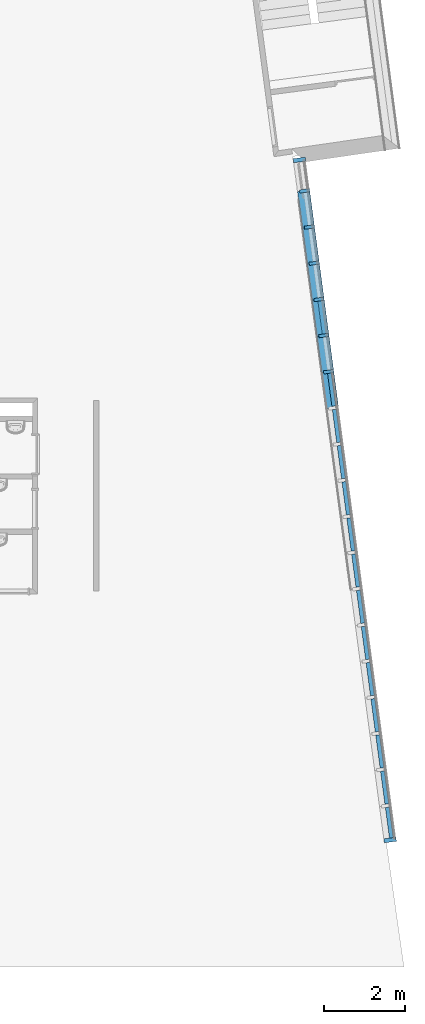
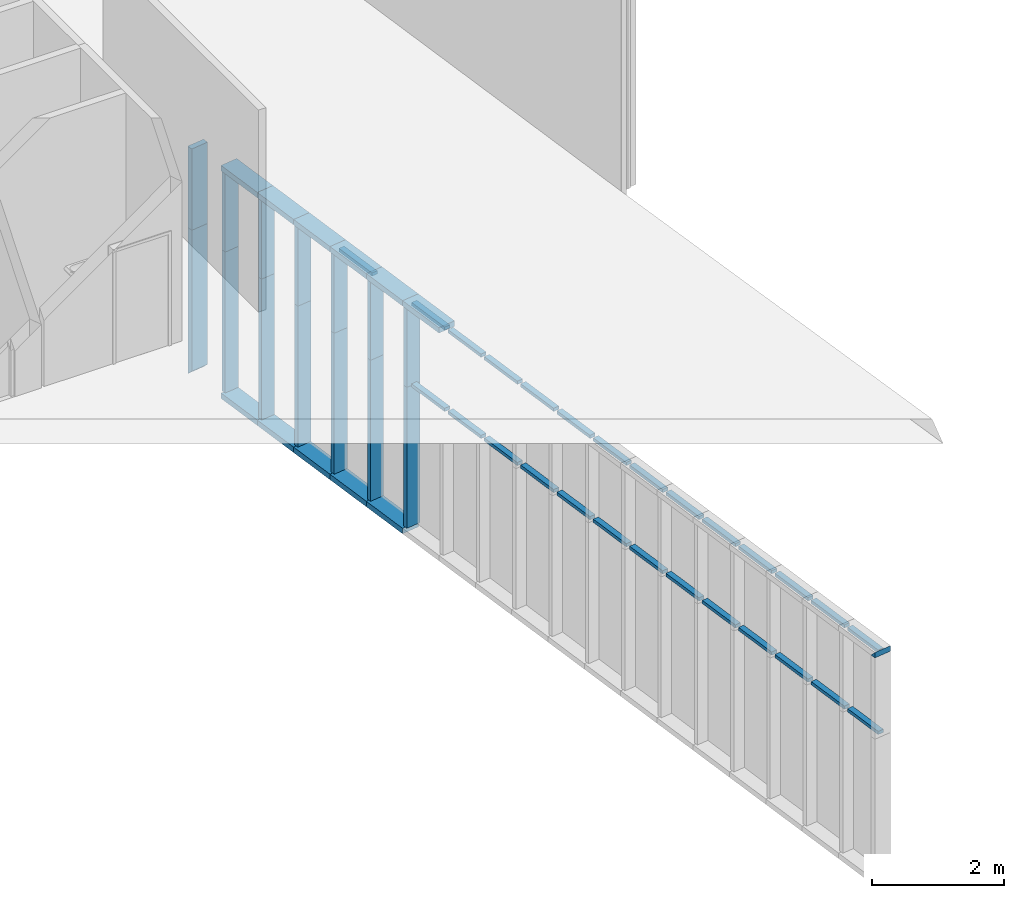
# One storey, part 2 of 17: 53 members, 1 element without a shape of its own.
"""IFC2X3 building model written with IfcOpenShell, lengths in metres."""

from ifc_helpers import new_model, entity, si_unit, converted_unit, money_unit, direction, frame, origin_with_axes, place, context, subcontext, project, spatial, polyline, outline, extrude, clip, halfspace, material, type_object, element, aggregate, save


model = new_model("IFC2X3")

# Units and contexts
model_context = context("Model", 3, precision=1e-05, world=origin_with_axes(), true_north=direction((0.0, 1.0)))
body_context = subcontext(model_context, "Body", "Model", "MODEL_VIEW")
ifc_project = project(units=[si_unit("LENGTHUNIT", "METRE"), si_unit("AREAUNIT", "SQUARE_METRE"), si_unit("VOLUMEUNIT", "CUBIC_METRE"), converted_unit("PLANEANGLEUNIT", "DEGREE", entity("IfcPlaneAngleMeasure", 0.0174532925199), si_unit("PLANEANGLEUNIT", "RADIAN"), dimensions=[0, 0, 0, 0, 0, 0, 0]), si_unit("SOLIDANGLEUNIT", "STERADIAN"), money_unit("EUR"), converted_unit("TIMEUNIT", "Year", entity("IfcTimeMeasure", 31556926.0), si_unit("TIMEUNIT", "SECOND"), dimensions=[0, 0, 0, 0, 0, 0, 0]), si_unit("MASSUNIT", "GRAM"), si_unit("THERMODYNAMICTEMPERATUREUNIT", "DEGREE_CELSIUS"), si_unit("LUMINOUSINTENSITYUNIT", "LUMEN")], contexts=[model_context])

# Site, building, storey
site_placement = place(None, origin_with_axes())
site = spatial("IfcSite", under=ifc_project, at=site_placement, Name="Undefined", CompositionType="ELEMENT")
building_placement = place(site_placement, origin_with_axes())
building = spatial("IfcBuilding", under=site, at=building_placement, Name="Undefined", CompositionType="ELEMENT")
storey_placement = place(building_placement, frame((0.0, 0.0, 9.425), z_axis=(0.0, 0.0, 1.0), x_axis=(1.0, 0.0, 0.0)))
storey = spatial("IfcBuildingStorey", under=building, at=storey_placement, Name="Mezzannine", CompositionType="ELEMENT", Elevation=9.425)

# Curtain wall, members
curtain_wall_type = type_object("IfcCurtainWallType", Name="Type de mur-rideau", PredefinedType="NOTDEFINED")
curtain_wall_placement = place(storey_placement, frame((66.1412459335, 18.707491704, -9.32500003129), z_axis=(0.0, 0.0, 1.0), x_axis=(1.0, 0.0, 0.0)))
curtain_wall = element("IfcCurtainWall", 1, at=curtain_wall_placement, inside=storey, type_object=curtain_wall_type, Name="CurtainWall_02", ObjectType="CURTAIN WALL")
ifc_material = material(Name="25 % 359672764")
member_type_1 = type_object("IfcMemberType", Name="Cadre 100 x 300", PredefinedType="NOTDEFINED")
member_1_placement = place(curtain_wall_placement, frame((0.178323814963, -1.33817062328, -1.0673850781e-07), z_axis=(-0.132091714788, 0.991237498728, 0.0), x_axis=(0.0, 0.0, 1.0)))
member_1 = element("IfcMember", 2, at=member_1_placement, type_object=member_type_1, material=ifc_material, Name="Frame-Bnd-414", context=body_context, shape_type="SweptSolid", body=[
    extrude(outline(polyline([(-0.25, -0.1), (0.05, -0.1), (0.05, 0.0), (-0.25, 0.0), (-0.25, -0.1)])), frame((0.0, 0.0, 0.0), z_axis=(0.0, 0.0, 1.0), x_axis=(0.0, 1.0, 0.0)), (0.0, 0.0, 1.0), 0.9),
])
member_2_placement = place(curtain_wall_placement, frame((-0.168111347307, 1.26153462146, 0.0), z_axis=(0.0, 0.0, 1.0), x_axis=(0.132091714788, -0.991237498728, 0.0)))
member_2 = element("IfcMember", 3, at=member_2_placement, type_object=member_type_1, material=ifc_material, Name="Frame-Bnd-360", context=body_context, shape_type="Clipping", body=[
    clip(extrude(outline(polyline([(-0.234600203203, -0.13214667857), (0.0627710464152, -0.0925191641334), (0.0495618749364, 0.00660458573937), (-0.247809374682, -0.0330229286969), (-0.234600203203, -0.13214667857)])), frame((0.0, 0.0, 0.0), z_axis=(0.0, 0.0, 1.0), x_axis=(0.132091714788, 0.991237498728, 0.0)), (0.0, 0.0, 1.0), 2.70000003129), halfspace(frame((0.0, 0.0, 0.0), z_axis=(-0.707106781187, 0.0, 0.707106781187), x_axis=(0.0, -1.0, 0.0)), True)),
])
member_3_placement = place(curtain_wall_placement, frame((0.534971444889, -4.01451186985, -1.0673850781e-07), z_axis=(-0.132091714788, 0.991237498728, 0.0), x_axis=(0.0, 0.0, 1.0)))
member_3 = element("IfcMember", 4, at=member_3_placement, type_object=member_type_1, material=ifc_material, Name="Frame-Bnd-417", context=body_context, shape_type="SweptSolid", body=[
    extrude(outline(polyline([(-0.25, -0.1), (0.05, -0.1), (0.05, 0.0), (-0.25, 0.0), (-0.25, -0.1)])), frame((0.0, 0.0, 0.0), z_axis=(0.0, 0.0, 1.0), x_axis=(0.0, 1.0, 0.0)), (0.0, 0.0, 1.0), 0.9),
])
member_4_placement = place(curtain_wall_placement, frame((0.0594412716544, -0.446056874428, -1.0673850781e-07), z_axis=(-0.132091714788, 0.991237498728, 1.18598342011e-07), x_axis=(1.56658583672e-08, -1.17559123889e-07, 1.0)))
member_4 = element("IfcMember", 5, at=member_4_placement, type_object=member_type_1, material=ifc_material, Name="Frame-Bnd-413", context=body_context, shape_type="SweptSolid", body=[
    extrude(outline(polyline([(-0.25, -0.1), (0.05, -0.1), (0.05, 0.0), (-0.25, 0.0), (-0.25, -0.1)])), frame((0.0, 0.0, 0.0), z_axis=(0.0, 0.0, 1.0), x_axis=(0.0, 1.0, 0.0)), (0.0, 0.0, 1.0), 0.9),
])
member_5_placement = place(curtain_wall_placement, frame((0.416088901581, -3.12239812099, -1.0673850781e-07), z_axis=(-0.132091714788, 0.991237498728, 0.0), x_axis=(0.0, 0.0, 1.0)))
member_5 = element("IfcMember", 6, at=member_5_placement, type_object=member_type_1, material=ifc_material, Name="Frame-Bnd-416", context=body_context, shape_type="SweptSolid", body=[
    extrude(outline(polyline([(-0.25, -0.1), (0.05, -0.1), (0.05, 0.0), (-0.25, 0.0), (-0.25, -0.1)])), frame((0.0, 0.0, 0.0), z_axis=(0.0, 0.0, 1.0), x_axis=(0.0, 1.0, 0.0)), (0.0, 0.0, 1.0), 0.9),
])
member_6_placement = place(curtain_wall_placement, frame((0.297206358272, -2.23028437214, -1.0673850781e-07), z_axis=(-0.132091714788, 0.991237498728, 0.0), x_axis=(0.0, 0.0, 1.0)))
member_6 = element("IfcMember", 7, at=member_6_placement, type_object=member_type_1, material=ifc_material, Name="Frame-Bnd-415", context=body_context, shape_type="SweptSolid", body=[
    extrude(outline(polyline([(-0.25, -0.1), (0.05, -0.1), (0.05, 0.0), (-0.25, 0.0), (-0.25, -0.1)])), frame((0.0, 0.0, 0.0), z_axis=(0.0, 0.0, 1.0), x_axis=(0.0, 1.0, 0.0)), (0.0, 0.0, 1.0), 0.9),
])
member_7_placement = place(curtain_wall_placement, frame((-0.168111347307, 1.26153462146, 2.70000003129), z_axis=(0.0, 0.0, 1.0), x_axis=(0.132091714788, -0.991237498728, 0.0)))
member_7 = element("IfcMember", 8, at=member_7_placement, type_object=member_type_1, material=ifc_material, Name="Frame-Bnd-359", context=body_context, shape_type="SweptSolid", body=[
    extrude(outline(polyline([(-0.234600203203, -0.13214667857), (0.0627710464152, -0.0925191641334), (0.0495618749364, 0.00660458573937), (-0.247809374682, -0.0330229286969), (-0.234600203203, -0.13214667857)])), frame((0.0, 0.0, 0.0), z_axis=(0.0, 0.0, 1.0), x_axis=(0.132091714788, 0.991237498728, 0.0)), (0.0, 0.0, 1.0), 1.5),
])
member_8_placement = place(curtain_wall_placement, frame((0.534971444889, -4.01451186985, 4.29999999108), z_axis=(0.132091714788, -0.991237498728, 0.0), x_axis=(0.0, 0.0, -1.0)))
member_8 = element("IfcMember", 9, at=member_8_placement, type_object=member_type_1, material=ifc_material, Name="Frame-Bnd-298", context=body_context, shape_type="SweptSolid", body=[
    extrude(outline(polyline([(0.25, 0.1), (-0.05, 0.1), (-0.05, 0.0), (0.25, 0.0), (0.25, 0.1)])), frame((0.0, 0.0, 0.0), z_axis=(0.0, 0.0, 1.0), x_axis=(0.0, -1.0, 0.0)), (0.0, 0.0, 1.0), 0.9),
])
member_9_placement = place(curtain_wall_placement, frame((0.416088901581, -3.12239812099, 4.29999999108), z_axis=(0.132091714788, -0.991237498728, 0.0), x_axis=(0.0, 0.0, -1.0)))
member_9 = element("IfcMember", 10, at=member_9_placement, type_object=member_type_1, material=ifc_material, Name="Frame-Bnd-299", context=body_context, shape_type="SweptSolid", body=[
    extrude(outline(polyline([(0.25, 0.1), (-0.05, 0.1), (-0.05, 0.0), (0.25, 0.0), (0.25, 0.1)])), frame((0.0, 0.0, 0.0), z_axis=(0.0, 0.0, 1.0), x_axis=(0.0, -1.0, 0.0)), (0.0, 0.0, 1.0), 0.9),
])
member_10_placement = place(curtain_wall_placement, frame((0.297206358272, -2.23028437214, 4.29999999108), z_axis=(0.132091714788, -0.991237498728, 0.0), x_axis=(0.0, 0.0, -1.0)))
member_10 = element("IfcMember", 11, at=member_10_placement, type_object=member_type_1, material=ifc_material, Name="Frame-Bnd-300", context=body_context, shape_type="SweptSolid", body=[
    extrude(outline(polyline([(0.25, 0.1), (-0.05, 0.1), (-0.05, 0.0), (0.25, 0.0), (0.25, 0.1)])), frame((0.0, 0.0, 0.0), z_axis=(0.0, 0.0, 1.0), x_axis=(0.0, -1.0, 0.0)), (0.0, 0.0, 1.0), 0.9),
])
member_11_placement = place(curtain_wall_placement, frame((0.178323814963, -1.33817062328, 4.29999999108), z_axis=(0.132091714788, -0.991237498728, 0.0), x_axis=(0.0, 0.0, -1.0)))
member_11 = element("IfcMember", 12, at=member_11_placement, type_object=member_type_1, material=ifc_material, Name="Frame-Bnd-301", context=body_context, shape_type="SweptSolid", body=[
    extrude(outline(polyline([(0.25, 0.1), (-0.05, 0.1), (-0.05, 0.0), (0.25, 0.0), (0.25, 0.1)])), frame((0.0, 0.0, 0.0), z_axis=(0.0, 0.0, 1.0), x_axis=(0.0, -1.0, 0.0)), (0.0, 0.0, 1.0), 0.9),
])
member_12_placement = place(curtain_wall_placement, frame((0.0594412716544, -0.446056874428, 4.29999999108), z_axis=(0.132091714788, -0.991237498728, 0.0), x_axis=(0.0, 0.0, -1.0)))
member_12 = element("IfcMember", 13, at=member_12_placement, type_object=member_type_1, material=ifc_material, Name="Frame-Bnd-302", context=body_context, shape_type="SweptSolid", body=[
    extrude(outline(polyline([(0.25, 0.1), (-0.05, 0.1), (-0.05, 0.0), (0.25, 0.0), (0.25, 0.1)])), frame((0.0, 0.0, 0.0), z_axis=(0.0, 0.0, 1.0), x_axis=(0.0, -1.0, 0.0)), (0.0, 0.0, 1.0), 0.9),
])
member_13_placement = place(curtain_wall_placement, frame((-0.0594412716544, 0.446056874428, 4.29999999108), z_axis=(0.132091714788, -0.991237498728, 0.0), x_axis=(0.0, 0.0, -1.0)))
member_13 = element("IfcMember", 14, at=member_13_placement, type_object=member_type_1, material=ifc_material, Name="Frame-Bnd-303", context=body_context, shape_type="SweptSolid", body=[
    extrude(outline(polyline([(0.25, 0.1), (-0.05, 0.1), (-0.05, 0.0), (0.25, 0.0), (0.25, 0.1)])), frame((0.0, 0.0, 0.0), z_axis=(0.0, 0.0, 1.0), x_axis=(0.0, -1.0, 0.0)), (0.0, 0.0, 1.0), 0.9),
])
member_14_placement = place(curtain_wall_placement, frame((2.0804445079, -15.611990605, 4.20000003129), z_axis=(0.0, 0.0, 1.0), x_axis=(0.132091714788, -0.991237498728, 0.0)))
member_14 = element("IfcMember", 15, at=member_14_placement, type_object=member_type_1, material=ifc_material, Name="Frame-Bnd-285", context=body_context, shape_type="Clipping", body=[
    clip(extrude(outline(polyline([(0.0495618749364, 0.00660458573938), (0.0363527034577, 0.105728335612), (-0.261018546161, 0.0661008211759), (-0.247809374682, -0.0330229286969), (0.0495618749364, 0.00660458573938)])), frame((0.0, 0.0, 0.0), z_axis=(0.0, 0.0, 1.0), x_axis=(0.132091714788, 0.991237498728, 0.0)), (0.0, 0.0, 1.0), 0.0999999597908), halfspace(frame((-0.0499999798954, 0.0, 0.05), z_axis=(0.707106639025, 0.0, -0.707106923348), x_axis=(0.0, 1.0, 0.0)), True)),
])
member_type_2 = type_object("IfcMemberType", Name="Montant 80 x 250", PredefinedType="NOTDEFINED")
member_15_placement = place(curtain_wall_placement, frame((0.534971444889, -4.01451186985, -1.0673850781e-07), z_axis=(0.0, 0.0, 1.0), x_axis=(0.132091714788, -0.991237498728, 0.0)))
member_15 = element("IfcMember", 16, at=member_15_placement, type_object=member_type_2, material=ifc_material, Name="Frame-Mll-458", context=body_context, shape_type="SweptSolid", body=[
    extrude(outline(polyline([(-0.192963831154, -0.0660678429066), (0.0548455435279, -0.0330449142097), (0.0442782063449, 0.0462540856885), (-0.203531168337, 0.0132311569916), (-0.192963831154, -0.0660678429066)])), frame((0.0, 0.0, 0.1), z_axis=(0.0, 0.0, 1.0), x_axis=(0.132091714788, 0.991237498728, 0.0)), (0.0, 0.0, 1.0), 2.60000013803),
])
member_16_placement = place(curtain_wall_placement, frame((0.416088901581, -3.12239812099, -1.0673850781e-07), z_axis=(0.0, 0.0, 1.0), x_axis=(0.132091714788, -0.991237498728, 0.0)))
member_16 = element("IfcMember", 17, at=member_16_placement, type_object=member_type_2, material=ifc_material, Name="Frame-Mll-458", context=body_context, shape_type="SweptSolid", body=[
    extrude(outline(polyline([(-0.192963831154, -0.0660678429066), (0.0548455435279, -0.0330449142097), (0.0442782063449, 0.0462540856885), (-0.203531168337, 0.0132311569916), (-0.192963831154, -0.0660678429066)])), frame((0.0, 0.0, 0.1), z_axis=(0.0, 0.0, 1.0), x_axis=(0.132091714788, 0.991237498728, 0.0)), (0.0, 0.0, 1.0), 2.60000013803),
])
member_17_placement = place(curtain_wall_placement, frame((0.297206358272, -2.23028437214, -1.0673850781e-07), z_axis=(0.0, 0.0, 1.0), x_axis=(0.132091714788, -0.991237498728, 0.0)))
member_17 = element("IfcMember", 18, at=member_17_placement, type_object=member_type_2, material=ifc_material, Name="Frame-Mll-458", context=body_context, shape_type="SweptSolid", body=[
    extrude(outline(polyline([(-0.192963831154, -0.0660678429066), (0.0548455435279, -0.0330449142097), (0.0442782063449, 0.0462540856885), (-0.203531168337, 0.0132311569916), (-0.192963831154, -0.0660678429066)])), frame((0.0, 0.0, 0.1), z_axis=(0.0, 0.0, 1.0), x_axis=(0.132091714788, 0.991237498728, 0.0)), (0.0, 0.0, 1.0), 2.60000013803),
])
member_18_placement = place(curtain_wall_placement, frame((0.178323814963, -1.33817062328, -1.0673850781e-07), z_axis=(0.0, 0.0, 1.0), x_axis=(0.132091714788, -0.991237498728, 0.0)))
member_18 = element("IfcMember", 19, at=member_18_placement, type_object=member_type_2, material=ifc_material, Name="Frame-Mll-458", context=body_context, shape_type="SweptSolid", body=[
    extrude(outline(polyline([(-0.192963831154, -0.0660678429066), (0.0548455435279, -0.0330449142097), (0.0442782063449, 0.0462540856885), (-0.203531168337, 0.0132311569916), (-0.192963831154, -0.0660678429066)])), frame((0.0, 0.0, 0.1), z_axis=(0.0, 0.0, 1.0), x_axis=(0.132091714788, 0.991237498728, 0.0)), (0.0, 0.0, 1.0), 2.60000013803),
])
member_19_placement = place(curtain_wall_placement, frame((0.0594412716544, -0.446056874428, -1.0673850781e-07), z_axis=(0.0, 0.0, 1.0), x_axis=(0.132091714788, -0.991237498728, 0.0)))
member_19 = element("IfcMember", 20, at=member_19_placement, type_object=member_type_2, material=ifc_material, Name="Frame-Mll-458", context=body_context, shape_type="SweptSolid", body=[
    extrude(outline(polyline([(-0.192963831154, -0.0660678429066), (0.0548455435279, -0.0330449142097), (0.0442782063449, 0.0462540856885), (-0.203531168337, 0.0132311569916), (-0.192963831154, -0.0660678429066)])), frame((0.0, 0.0, 0.1), z_axis=(0.0, 0.0, 1.0), x_axis=(0.132091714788, 0.991237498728, 0.0)), (0.0, 0.0, 1.0), 2.60000013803),
])
member_20_placement = place(curtain_wall_placement, frame((-0.0594412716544, 0.446056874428, 0.0), z_axis=(0.0, 0.0, 1.0), x_axis=(0.132091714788, -0.991237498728, 0.0)))
member_20 = element("IfcMember", 21, at=member_20_placement, type_object=member_type_2, material=ifc_material, Name="Frame-Mll-458", context=body_context, shape_type="SweptSolid", body=[
    extrude(outline(polyline([(-0.192963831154, -0.0660678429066), (0.0548455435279, -0.0330449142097), (0.0442782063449, 0.0462540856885), (-0.203531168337, 0.0132311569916), (-0.192963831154, -0.0660678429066)])), frame((0.0, 0.0, 0.1), z_axis=(0.0, 0.0, 1.0), x_axis=(0.132091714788, 0.991237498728, 0.0)), (0.0, 0.0, 1.0), 2.60000013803),
])
member_21_placement = place(curtain_wall_placement, frame((0.534971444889, -4.01451186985, 2.70000003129), z_axis=(0.0, 0.0, 1.0), x_axis=(0.132091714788, -0.991237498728, 0.0)))
member_21 = element("IfcMember", 22, at=member_21_placement, type_object=member_type_2, material=ifc_material, Name="Frame-Mll-458", context=body_context, shape_type="SweptSolid", body=[
    extrude(outline(polyline([(-0.192963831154, -0.0660678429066), (0.0548455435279, -0.0330449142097), (0.0442782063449, 0.0462540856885), (-0.203531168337, 0.0132311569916), (-0.192963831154, -0.0660678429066)])), frame((0.0, 0.0, 0.0), z_axis=(0.0, 0.0, 1.0), x_axis=(0.132091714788, 0.991237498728, 0.0)), (0.0, 0.0, 1.0), 1.5),
])
member_22_placement = place(curtain_wall_placement, frame((0.416088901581, -3.12239812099, 2.70000003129), z_axis=(0.0, 0.0, 1.0), x_axis=(0.132091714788, -0.991237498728, 0.0)))
member_22 = element("IfcMember", 23, at=member_22_placement, type_object=member_type_2, material=ifc_material, Name="Frame-Mll-458", context=body_context, shape_type="SweptSolid", body=[
    extrude(outline(polyline([(-0.192963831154, -0.0660678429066), (0.0548455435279, -0.0330449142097), (0.0442782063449, 0.0462540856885), (-0.203531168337, 0.0132311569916), (-0.192963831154, -0.0660678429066)])), frame((0.0, 0.0, 0.0), z_axis=(0.0, 0.0, 1.0), x_axis=(0.132091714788, 0.991237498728, 0.0)), (0.0, 0.0, 1.0), 1.5),
])
member_23_placement = place(curtain_wall_placement, frame((0.297206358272, -2.23028437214, 2.70000003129), z_axis=(0.0, 0.0, 1.0), x_axis=(0.132091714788, -0.991237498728, 0.0)))
member_23 = element("IfcMember", 24, at=member_23_placement, type_object=member_type_2, material=ifc_material, Name="Frame-Mll-458", context=body_context, shape_type="SweptSolid", body=[
    extrude(outline(polyline([(-0.192963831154, -0.0660678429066), (0.0548455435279, -0.0330449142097), (0.0442782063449, 0.0462540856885), (-0.203531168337, 0.0132311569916), (-0.192963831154, -0.0660678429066)])), frame((0.0, 0.0, 0.0), z_axis=(0.0, 0.0, 1.0), x_axis=(0.132091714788, 0.991237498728, 0.0)), (0.0, 0.0, 1.0), 1.5),
])
member_24_placement = place(curtain_wall_placement, frame((0.178323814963, -1.33817062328, 2.70000003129), z_axis=(0.0, 0.0, 1.0), x_axis=(0.132091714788, -0.991237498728, 0.0)))
member_24 = element("IfcMember", 25, at=member_24_placement, type_object=member_type_2, material=ifc_material, Name="Frame-Mll-458", context=body_context, shape_type="SweptSolid", body=[
    extrude(outline(polyline([(-0.192963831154, -0.0660678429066), (0.0548455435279, -0.0330449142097), (0.0442782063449, 0.0462540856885), (-0.203531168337, 0.0132311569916), (-0.192963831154, -0.0660678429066)])), frame((0.0, 0.0, 0.0), z_axis=(0.0, 0.0, 1.0), x_axis=(0.132091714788, 0.991237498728, 0.0)), (0.0, 0.0, 1.0), 1.5),
])
member_25_placement = place(curtain_wall_placement, frame((0.0594412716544, -0.446056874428, 2.70000003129), z_axis=(0.0, 0.0, 1.0), x_axis=(0.132091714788, -0.991237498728, 0.0)))
member_25 = element("IfcMember", 26, at=member_25_placement, type_object=member_type_2, material=ifc_material, Name="Frame-Mll-458", context=body_context, shape_type="SweptSolid", body=[
    extrude(outline(polyline([(-0.192963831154, -0.0660678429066), (0.0548455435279, -0.0330449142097), (0.0442782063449, 0.0462540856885), (-0.203531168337, 0.0132311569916), (-0.192963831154, -0.0660678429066)])), frame((0.0, 0.0, 0.0), z_axis=(0.0, 0.0, 1.0), x_axis=(0.132091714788, 0.991237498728, 0.0)), (0.0, 0.0, 1.0), 1.5),
])
member_26_placement = place(curtain_wall_placement, frame((-0.0594412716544, 0.446056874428, 2.70000003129), z_axis=(0.0, 0.0, 1.0), x_axis=(0.132091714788, -0.991237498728, 0.0)))
member_26 = element("IfcMember", 27, at=member_26_placement, type_object=member_type_2, material=ifc_material, Name="Frame-Mll-458", context=body_context, shape_type="SweptSolid", body=[
    extrude(outline(polyline([(-0.192963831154, -0.0660678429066), (0.0548455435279, -0.0330449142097), (0.0442782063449, 0.0462540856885), (-0.203531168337, 0.0132311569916), (-0.192963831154, -0.0660678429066)])), frame((0.0, 0.0, 0.0), z_axis=(0.0, 0.0, 1.0), x_axis=(0.132091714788, 0.991237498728, 0.0)), (0.0, 0.0, 1.0), 1.5),
])
member_type_3 = type_object("IfcMemberType", Name="Traverse 60 x 100", PredefinedType="NOTDEFINED")
member_27_placement = place(curtain_wall_placement, frame((0.416088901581, -3.12239812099, 4.20000003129), z_axis=(-0.132091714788, 0.991237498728, 0.0), x_axis=(0.0, 0.0, 1.0)))
member_27 = element("IfcMember", 28, at=member_27_placement, type_object=member_type_3, material=ifc_material, Name="Frame-Trs-030", context=body_context, shape_type="SweptSolid", body=[
    extrude(outline(polyline([(-0.11, -0.03), (-0.00999999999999, -0.03), (-0.00999999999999, 0.03), (-0.11, 0.03), (-0.11, -0.03)])), frame((0.0, 0.0, 0.04), z_axis=(0.0, 0.0, 1.0), x_axis=(0.0, 1.0, 0.0)), (0.0, 0.0, 1.0), 0.82),
])
member_28_placement = place(curtain_wall_placement, frame((2.0804445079, -15.611990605, 2.70000003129), z_axis=(-0.132091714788, 0.991237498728, 0.0), x_axis=(0.0, 0.0, 1.0)))
member_28 = element("IfcMember", 29, at=member_28_placement, type_object=member_type_3, material=ifc_material, Name="Frame-Trs-013", context=body_context, shape_type="SweptSolid", body=[
    extrude(outline(polyline([(-0.11, -0.03), (-0.01, -0.03), (-0.01, 0.03), (-0.11, 0.03), (-0.11, -0.03)])), frame((0.0, 0.0, 0.1), z_axis=(0.0, 0.0, 1.0), x_axis=(0.0, 1.0, 0.0)), (0.0, 0.0, 1.0), 0.76),
])
member_29_placement = place(curtain_wall_placement, frame((1.96156196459, -14.7198768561, 2.70000003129), z_axis=(-0.132091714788, 0.991237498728, 0.0), x_axis=(0.0, 0.0, 1.0)))
member_29 = element("IfcMember", 30, at=member_29_placement, type_object=member_type_3, material=ifc_material, Name="Frame-Trs-013", context=body_context, shape_type="SweptSolid", body=[
    extrude(outline(polyline([(-0.11, -0.03), (-0.01, -0.03), (-0.01, 0.03), (-0.11, 0.03), (-0.11, -0.03)])), frame((0.0, 0.0, 0.04), z_axis=(0.0, 0.0, 1.0), x_axis=(0.0, 1.0, 0.0)), (0.0, 0.0, 1.0), 0.82),
])
member_30_placement = place(curtain_wall_placement, frame((1.84267942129, -13.8277631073, 2.70000003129), z_axis=(-0.132091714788, 0.991237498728, 0.0), x_axis=(0.0, 0.0, 1.0)))
member_30 = element("IfcMember", 31, at=member_30_placement, type_object=member_type_3, material=ifc_material, Name="Frame-Trs-013", context=body_context, shape_type="SweptSolid", body=[
    extrude(outline(polyline([(-0.11, -0.03), (-0.00999999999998, -0.03), (-0.00999999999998, 0.03), (-0.11, 0.03), (-0.11, -0.03)])), frame((0.0, 0.0, 0.04), z_axis=(0.0, 0.0, 1.0), x_axis=(0.0, 1.0, 0.0)), (0.0, 0.0, 1.0), 0.82),
])
member_31_placement = place(curtain_wall_placement, frame((1.72379687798, -12.9356493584, 2.70000003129), z_axis=(-0.132091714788, 0.991237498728, 0.0), x_axis=(0.0, 0.0, 1.0)))
member_31 = element("IfcMember", 32, at=member_31_placement, type_object=member_type_3, material=ifc_material, Name="Frame-Trs-013", context=body_context, shape_type="SweptSolid", body=[
    extrude(outline(polyline([(-0.11, -0.03), (-0.01, -0.03), (-0.01, 0.03), (-0.11, 0.03), (-0.11, -0.03)])), frame((0.0, 0.0, 0.04), z_axis=(0.0, 0.0, 1.0), x_axis=(0.0, 1.0, 0.0)), (0.0, 0.0, 1.0), 0.82),
])
member_32_placement = place(curtain_wall_placement, frame((1.60491433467, -12.0435356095, 2.70000003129), z_axis=(-0.132091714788, 0.991237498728, 0.0), x_axis=(0.0, 0.0, 1.0)))
member_32 = element("IfcMember", 33, at=member_32_placement, type_object=member_type_3, material=ifc_material, Name="Frame-Trs-013", context=body_context, shape_type="SweptSolid", body=[
    extrude(outline(polyline([(-0.11, -0.03), (-0.01, -0.03), (-0.01, 0.03), (-0.11, 0.03), (-0.11, -0.03)])), frame((0.0, 0.0, 0.04), z_axis=(0.0, 0.0, 1.0), x_axis=(0.0, 1.0, 0.0)), (0.0, 0.0, 1.0), 0.82),
])
member_33_placement = place(curtain_wall_placement, frame((1.48603179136, -11.1514218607, 2.70000003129), z_axis=(-0.132091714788, 0.991237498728, 0.0), x_axis=(0.0, 0.0, 1.0)))
member_33 = element("IfcMember", 34, at=member_33_placement, type_object=member_type_3, material=ifc_material, Name="Frame-Trs-013", context=body_context, shape_type="SweptSolid", body=[
    extrude(outline(polyline([(-0.11, -0.03), (-0.01, -0.03), (-0.01, 0.03), (-0.11, 0.03), (-0.11, -0.03)])), frame((0.0, 0.0, 0.04), z_axis=(0.0, 0.0, 1.0), x_axis=(0.0, 1.0, 0.0)), (0.0, 0.0, 1.0), 0.82),
])
member_34_placement = place(curtain_wall_placement, frame((1.36714924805, -10.2593081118, 2.70000003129), z_axis=(-0.132091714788, 0.991237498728, 0.0), x_axis=(0.0, 0.0, 1.0)))
member_34 = element("IfcMember", 35, at=member_34_placement, type_object=member_type_3, material=ifc_material, Name="Frame-Trs-013", context=body_context, shape_type="SweptSolid", body=[
    extrude(outline(polyline([(-0.11, -0.03), (-0.01, -0.03), (-0.01, 0.03), (-0.11, 0.03), (-0.11, -0.03)])), frame((0.0, 0.0, 0.04), z_axis=(0.0, 0.0, 1.0), x_axis=(0.0, 1.0, 0.0)), (0.0, 0.0, 1.0), 0.82),
])
member_35_placement = place(curtain_wall_placement, frame((1.24826670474, -9.36719436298, 2.70000003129), z_axis=(-0.132091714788, 0.991237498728, 0.0), x_axis=(0.0, 0.0, 1.0)))
member_35 = element("IfcMember", 36, at=member_35_placement, type_object=member_type_3, material=ifc_material, Name="Frame-Trs-013", context=body_context, shape_type="SweptSolid", body=[
    extrude(outline(polyline([(-0.11, -0.03), (-0.01, -0.03), (-0.01, 0.03), (-0.11, 0.03), (-0.11, -0.03)])), frame((0.0, 0.0, 0.04), z_axis=(0.0, 0.0, 1.0), x_axis=(0.0, 1.0, 0.0)), (0.0, 0.0, 1.0), 0.82),
])
member_36_placement = place(curtain_wall_placement, frame((1.12938416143, -8.47508061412, 2.70000003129), z_axis=(-0.132091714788, 0.991237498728, 0.0), x_axis=(0.0, 0.0, 1.0)))
member_36 = element("IfcMember", 37, at=member_36_placement, type_object=member_type_3, material=ifc_material, Name="Frame-Trs-013", context=body_context, shape_type="SweptSolid", body=[
    extrude(outline(polyline([(-0.11, -0.03), (-0.00999999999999, -0.03), (-0.00999999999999, 0.03), (-0.11, 0.03), (-0.11, -0.03)])), frame((0.0, 0.0, 0.04), z_axis=(0.0, 0.0, 1.0), x_axis=(0.0, 1.0, 0.0)), (0.0, 0.0, 1.0), 0.82),
])
member_37_placement = place(curtain_wall_placement, frame((1.01050161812, -7.58296686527, 2.70000003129), z_axis=(-0.132091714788, 0.991237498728, 0.0), x_axis=(0.0, 0.0, 1.0)))
member_37 = element("IfcMember", 38, at=member_37_placement, type_object=member_type_3, material=ifc_material, Name="Frame-Trs-013", context=body_context, shape_type="SweptSolid", body=[
    extrude(outline(polyline([(-0.11, -0.03), (-0.01, -0.03), (-0.01, 0.03), (-0.11, 0.03), (-0.11, -0.03)])), frame((0.0, 0.0, 0.04), z_axis=(0.0, 0.0, 1.0), x_axis=(0.0, 1.0, 0.0)), (0.0, 0.0, 1.0), 0.82),
])
member_38_placement = place(curtain_wall_placement, frame((0.891619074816, -6.69085311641, 2.70000003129), z_axis=(-0.132091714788, 0.991237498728, 0.0), x_axis=(0.0, 0.0, 1.0)))
member_38 = element("IfcMember", 39, at=member_38_placement, type_object=member_type_3, material=ifc_material, Name="Frame-Trs-013", context=body_context, shape_type="SweptSolid", body=[
    extrude(outline(polyline([(-0.11, -0.03), (-0.00999999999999, -0.03), (-0.00999999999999, 0.03), (-0.11, 0.03), (-0.11, -0.03)])), frame((0.0, 0.0, 0.04), z_axis=(0.0, 0.0, 1.0), x_axis=(0.0, 1.0, 0.0)), (0.0, 0.0, 1.0), 0.82),
])
member_39_placement = place(curtain_wall_placement, frame((0.772736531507, -5.79873936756, 2.70000003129), z_axis=(-0.132091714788, 0.991237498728, 0.0), x_axis=(0.0, 0.0, 1.0)))
member_39 = element("IfcMember", 40, at=member_39_placement, type_object=member_type_3, material=ifc_material, Name="Frame-Trs-013", context=body_context, shape_type="SweptSolid", body=[
    extrude(outline(polyline([(-0.11, -0.03), (-0.01, -0.03), (-0.01, 0.03), (-0.11, 0.03), (-0.11, -0.03)])), frame((0.0, 0.0, 0.04), z_axis=(0.0, 0.0, 1.0), x_axis=(0.0, 1.0, 0.0)), (0.0, 0.0, 1.0), 0.82),
])
member_40_placement = place(curtain_wall_placement, frame((0.653853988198, -4.9066256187, 2.70000003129), z_axis=(-0.132091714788, 0.991237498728, 0.0), x_axis=(0.0, 0.0, 1.0)))
member_40 = element("IfcMember", 41, at=member_40_placement, type_object=member_type_3, material=ifc_material, Name="Frame-Trs-013", context=body_context, shape_type="SweptSolid", body=[
    extrude(outline(polyline([(-0.11, -0.03), (-0.01, -0.03), (-0.01, 0.03), (-0.11, 0.03), (-0.11, -0.03)])), frame((0.0, 0.0, 0.04), z_axis=(0.0, 0.0, 1.0), x_axis=(0.0, 1.0, 0.0)), (0.0, 0.0, 1.0), 0.82),
])
member_41_placement = place(curtain_wall_placement, frame((0.653853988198, -4.9066256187, 4.20000003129), z_axis=(-0.132091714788, 0.991237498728, 0.0), x_axis=(0.0, 0.0, 1.0)))
member_41 = element("IfcMember", 42, at=member_41_placement, type_object=member_type_3, material=ifc_material, Name="Frame-Trs-028", context=body_context, shape_type="SweptSolid", body=[
    extrude(outline(polyline([(-0.11, -0.03), (-0.01, -0.03), (-0.01, 0.03), (-0.11, 0.03), (-0.11, -0.03)])), frame((0.0, 0.0, 0.04), z_axis=(0.0, 0.0, 1.0), x_axis=(0.0, 1.0, 0.0)), (0.0, 0.0, 1.0), 0.82),
])
member_42_placement = place(curtain_wall_placement, frame((0.772736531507, -5.79873936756, 4.20000003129), z_axis=(-0.132091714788, 0.991237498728, 0.0), x_axis=(0.0, 0.0, 1.0)))
member_42 = element("IfcMember", 43, at=member_42_placement, type_object=member_type_3, material=ifc_material, Name="Frame-Trs-027", context=body_context, shape_type="SweptSolid", body=[
    extrude(outline(polyline([(-0.11, -0.03), (-0.01, -0.03), (-0.01, 0.03), (-0.11, 0.03), (-0.11, -0.03)])), frame((0.0, 0.0, 0.04), z_axis=(0.0, 0.0, 1.0), x_axis=(0.0, 1.0, 0.0)), (0.0, 0.0, 1.0), 0.82),
])
member_43_placement = place(curtain_wall_placement, frame((2.0804445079, -15.611990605, 4.20000003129), z_axis=(-0.132091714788, 0.991237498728, 0.0), x_axis=(0.0, 0.0, 1.0)))
member_43 = element("IfcMember", 44, at=member_43_placement, type_object=member_type_3, material=ifc_material, Name="Frame-Trs-016", context=body_context, shape_type="SweptSolid", body=[
    extrude(outline(polyline([(-0.11, -0.03), (-0.01, -0.03), (-0.01, 0.03), (-0.11, 0.03), (-0.11, -0.03)])), frame((0.0, 0.0, 0.1), z_axis=(0.0, 0.0, 1.0), x_axis=(0.0, 1.0, 0.0)), (0.0, 0.0, 1.0), 0.76),
])
member_44_placement = place(curtain_wall_placement, frame((1.96156196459, -14.7198768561, 4.20000003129), z_axis=(-0.132091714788, 0.991237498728, 0.0), x_axis=(0.0, 0.0, 1.0)))
member_44 = element("IfcMember", 45, at=member_44_placement, type_object=member_type_3, material=ifc_material, Name="Frame-Trs-017", context=body_context, shape_type="SweptSolid", body=[
    extrude(outline(polyline([(-0.11, -0.03), (-0.01, -0.03), (-0.01, 0.03), (-0.11, 0.03), (-0.11, -0.03)])), frame((0.0, 0.0, 0.04), z_axis=(0.0, 0.0, 1.0), x_axis=(0.0, 1.0, 0.0)), (0.0, 0.0, 1.0), 0.82),
])
member_45_placement = place(curtain_wall_placement, frame((1.84267942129, -13.8277631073, 4.20000003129), z_axis=(-0.132091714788, 0.991237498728, 0.0), x_axis=(0.0, 0.0, 1.0)))
member_45 = element("IfcMember", 46, at=member_45_placement, type_object=member_type_3, material=ifc_material, Name="Frame-Trs-018", context=body_context, shape_type="SweptSolid", body=[
    extrude(outline(polyline([(-0.11, -0.03), (-0.00999999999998, -0.03), (-0.00999999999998, 0.03), (-0.11, 0.03), (-0.11, -0.03)])), frame((0.0, 0.0, 0.04), z_axis=(0.0, 0.0, 1.0), x_axis=(0.0, 1.0, 0.0)), (0.0, 0.0, 1.0), 0.82),
])
member_46_placement = place(curtain_wall_placement, frame((1.72379687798, -12.9356493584, 4.20000003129), z_axis=(-0.132091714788, 0.991237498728, 0.0), x_axis=(0.0, 0.0, 1.0)))
member_46 = element("IfcMember", 47, at=member_46_placement, type_object=member_type_3, material=ifc_material, Name="Frame-Trs-019", context=body_context, shape_type="SweptSolid", body=[
    extrude(outline(polyline([(-0.11, -0.03), (-0.01, -0.03), (-0.01, 0.03), (-0.11, 0.03), (-0.11, -0.03)])), frame((0.0, 0.0, 0.04), z_axis=(0.0, 0.0, 1.0), x_axis=(0.0, 1.0, 0.0)), (0.0, 0.0, 1.0), 0.82),
])
member_47_placement = place(curtain_wall_placement, frame((1.60491433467, -12.0435356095, 4.20000003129), z_axis=(-0.132091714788, 0.991237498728, 0.0), x_axis=(0.0, 0.0, 1.0)))
member_47 = element("IfcMember", 48, at=member_47_placement, type_object=member_type_3, material=ifc_material, Name="Frame-Trs-020", context=body_context, shape_type="SweptSolid", body=[
    extrude(outline(polyline([(-0.11, -0.03), (-0.01, -0.03), (-0.01, 0.03), (-0.11, 0.03), (-0.11, -0.03)])), frame((0.0, 0.0, 0.04), z_axis=(0.0, 0.0, 1.0), x_axis=(0.0, 1.0, 0.0)), (0.0, 0.0, 1.0), 0.82),
])
member_48_placement = place(curtain_wall_placement, frame((1.48603179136, -11.1514218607, 4.20000003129), z_axis=(-0.132091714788, 0.991237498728, 0.0), x_axis=(0.0, 0.0, 1.0)))
member_48 = element("IfcMember", 49, at=member_48_placement, type_object=member_type_3, material=ifc_material, Name="Frame-Trs-021", context=body_context, shape_type="SweptSolid", body=[
    extrude(outline(polyline([(-0.11, -0.03), (-0.01, -0.03), (-0.01, 0.03), (-0.11, 0.03), (-0.11, -0.03)])), frame((0.0, 0.0, 0.04), z_axis=(0.0, 0.0, 1.0), x_axis=(0.0, 1.0, 0.0)), (0.0, 0.0, 1.0), 0.82),
])
member_49_placement = place(curtain_wall_placement, frame((1.36714924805, -10.2593081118, 4.20000003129), z_axis=(-0.132091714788, 0.991237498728, 0.0), x_axis=(0.0, 0.0, 1.0)))
member_49 = element("IfcMember", 50, at=member_49_placement, type_object=member_type_3, material=ifc_material, Name="Frame-Trs-022", context=body_context, shape_type="SweptSolid", body=[
    extrude(outline(polyline([(-0.11, -0.03), (-0.01, -0.03), (-0.01, 0.03), (-0.11, 0.03), (-0.11, -0.03)])), frame((0.0, 0.0, 0.04), z_axis=(0.0, 0.0, 1.0), x_axis=(0.0, 1.0, 0.0)), (0.0, 0.0, 1.0), 0.82),
])
member_50_placement = place(curtain_wall_placement, frame((1.24826670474, -9.36719436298, 4.20000003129), z_axis=(-0.132091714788, 0.991237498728, 0.0), x_axis=(0.0, 0.0, 1.0)))
member_50 = element("IfcMember", 51, at=member_50_placement, type_object=member_type_3, material=ifc_material, Name="Frame-Trs-023", context=body_context, shape_type="SweptSolid", body=[
    extrude(outline(polyline([(-0.11, -0.03), (-0.01, -0.03), (-0.01, 0.03), (-0.11, 0.03), (-0.11, -0.03)])), frame((0.0, 0.0, 0.04), z_axis=(0.0, 0.0, 1.0), x_axis=(0.0, 1.0, 0.0)), (0.0, 0.0, 1.0), 0.82),
])
member_51_placement = place(curtain_wall_placement, frame((1.12938416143, -8.47508061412, 4.20000003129), z_axis=(-0.132091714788, 0.991237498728, 0.0), x_axis=(0.0, 0.0, 1.0)))
member_51 = element("IfcMember", 52, at=member_51_placement, type_object=member_type_3, material=ifc_material, Name="Frame-Trs-024", context=body_context, shape_type="SweptSolid", body=[
    extrude(outline(polyline([(-0.11, -0.03), (-0.00999999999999, -0.03), (-0.00999999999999, 0.03), (-0.11, 0.03), (-0.11, -0.03)])), frame((0.0, 0.0, 0.04), z_axis=(0.0, 0.0, 1.0), x_axis=(0.0, 1.0, 0.0)), (0.0, 0.0, 1.0), 0.82),
])
member_52_placement = place(curtain_wall_placement, frame((1.01050161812, -7.58296686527, 4.20000003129), z_axis=(-0.132091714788, 0.991237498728, 0.0), x_axis=(0.0, 0.0, 1.0)))
member_52 = element("IfcMember", 53, at=member_52_placement, type_object=member_type_3, material=ifc_material, Name="Frame-Trs-025", context=body_context, shape_type="SweptSolid", body=[
    extrude(outline(polyline([(-0.11, -0.03), (-0.01, -0.03), (-0.01, 0.03), (-0.11, 0.03), (-0.11, -0.03)])), frame((0.0, 0.0, 0.04), z_axis=(0.0, 0.0, 1.0), x_axis=(0.0, 1.0, 0.0)), (0.0, 0.0, 1.0), 0.82),
])
member_53_placement = place(curtain_wall_placement, frame((0.891619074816, -6.69085311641, 4.20000003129), z_axis=(-0.132091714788, 0.991237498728, 0.0), x_axis=(0.0, 0.0, 1.0)))
member_53 = element("IfcMember", 54, at=member_53_placement, type_object=member_type_3, material=ifc_material, Name="Frame-Trs-026", context=body_context, shape_type="SweptSolid", body=[
    extrude(outline(polyline([(-0.11, -0.03), (-0.00999999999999, -0.03), (-0.00999999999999, 0.03), (-0.11, 0.03), (-0.11, -0.03)])), frame((0.0, 0.0, 0.04), z_axis=(0.0, 0.0, 1.0), x_axis=(0.0, 1.0, 0.0)), (0.0, 0.0, 1.0), 0.82),
])
aggregate(curtain_wall, [member_1, member_2, member_3, member_4, member_5, member_6, member_15, member_16, member_17, member_18, member_19, member_20, member_7, member_27, member_28, member_29, member_30, member_31, member_32, member_33, member_34, member_35, member_36, member_37, member_38, member_39, member_40, member_8, member_9, member_10, member_11, member_12, member_13, member_21, member_22, member_23, member_24, member_41, member_25, member_26, member_42, member_14, member_43, member_44, member_45, member_46, member_47, member_48, member_49, member_50, member_51, member_52, member_53])

save(model, "model.ifc")
